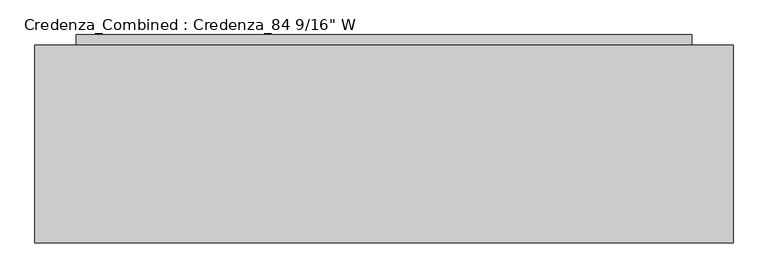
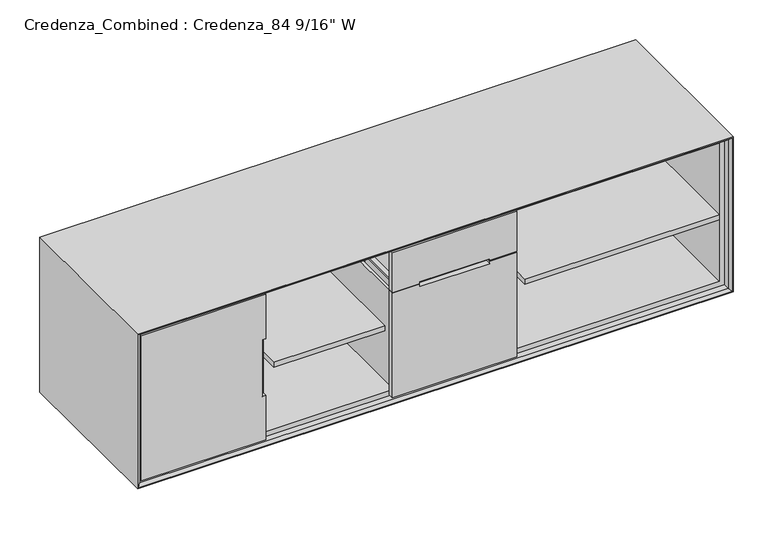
"""IFC4 building model written with IfcOpenShell, lengths in millimetres: furniture geometry."""

from ifc_helpers import new_model, si_unit, frame, origin, origin_with_axes, place, context, project, spatial, polyline, outline, extrude, faceted_brep, source, transform, mapped, element, save


def furniture_d45eaf3e(model_context):
    return source(origin(), model_context, "Body", "SolidModel", [
        extrude(outline(polyline([(2103.4375, 609.6), (2103.4375, 9.525), (1401.7625, 9.525), (1401.7625, 609.6), (2103.4375, 609.6)])), frame((0.0, 0.0, 371.475), z_axis=(0.0, 0.0, 1.0), x_axis=(1.0, 0.0, 0.0)), (0.0, 0.0, 1.0), 19.05),
        faceted_brep([(1297.9082407, 93.4200979, 124.61875), (1297.9082407, 244.7174021, 124.61875), (999.2042593, 244.7174021, 124.61875), (999.2042593, 93.4200979, 124.61875), (1303.9341657, 250.7433271, 118.26875), (1303.9341657, 87.3941729, 118.26875), (993.1783343, 87.3941729, 118.26875), (993.1783343, 250.7433271, 118.26875), (1336.5595885, 283.36875, 492.91875), (1336.5595885, 283.36875, 499.26875), (1336.5595885, 54.76875, 499.26875), (1336.5595885, 54.76875, 492.91875), (1323.8595885, 270.66875, 492.91875), (1323.8595885, 67.46875, 492.91875), (1317.8336635, 264.642825, 499.26875), (1317.8336635, 73.494675, 499.26875), (960.5529115, 54.76875, 499.26875), (960.5529115, 54.76875, 492.91875), (973.2529115, 67.46875, 492.91875), (979.2788365, 73.494675, 499.26875), (960.5529115, 283.36875, 499.26875), (960.5529115, 283.36875, 492.91875), (973.2529115, 270.66875, 492.91875), (979.2788365, 264.642825, 499.26875)], [[[0, 1, 2, 3]], [[4, 5, 6, 7]], [[8, 9, 10, 11]], [[4, 12, 13, 5]], [[14, 1, 0, 15]], [[11, 10, 16, 17]], [[5, 13, 18, 6]], [[15, 0, 3, 19]], [[17, 16, 20, 21]], [[6, 18, 22, 7]], [[19, 3, 2, 23]], [[9, 8, 21, 20]], [[8, 11, 17, 21], [13, 12, 22, 18]], [[12, 4, 7, 22]], [[1, 14, 23, 2]], [[10, 9, 20, 16], [14, 15, 19, 23]]]),
        faceted_brep([(1297.9082407, 383.9325979, 124.61875), (1297.9082407, 535.2299021, 124.61875), (999.2042593, 535.2299021, 124.61875), (999.2042593, 383.9325979, 124.61875), (1303.9341657, 541.2558271, 118.26875), (1303.9341657, 377.9066729, 118.26875), (993.1783343, 377.9066729, 118.26875), (993.1783343, 541.2558271, 118.26875), (1336.5595885, 573.88125, 492.91875), (1336.5595885, 573.88125, 499.26875), (1336.5595885, 345.28125, 499.26875), (1336.5595885, 345.28125, 492.91875), (1323.8595885, 561.18125, 492.91875), (1323.8595885, 357.98125, 492.91875), (1317.8336635, 555.155325, 499.26875), (1317.8336635, 364.007175, 499.26875), (960.5529115, 345.28125, 499.26875), (960.5529115, 345.28125, 492.91875), (973.2529115, 357.98125, 492.91875), (979.2788365, 364.007175, 499.26875), (960.5529115, 573.88125, 499.26875), (960.5529115, 573.88125, 492.91875), (973.2529115, 561.18125, 492.91875), (979.2788365, 555.155325, 499.26875)], [[[0, 1, 2, 3]], [[4, 5, 6, 7]], [[8, 9, 10, 11]], [[4, 12, 13, 5]], [[14, 1, 0, 15]], [[11, 10, 16, 17]], [[5, 13, 18, 6]], [[15, 0, 3, 19]], [[17, 16, 20, 21]], [[6, 18, 22, 7]], [[19, 3, 2, 23]], [[9, 8, 21, 20]], [[8, 11, 17, 21], [13, 12, 22, 18]], [[12, 4, 7, 22]], [[1, 14, 23, 2]], [[10, 9, 20, 16], [14, 15, 19, 23]]]),
        extrude(outline(polyline([(1341.4375, 319.0875), (1341.4375, 300.0375), (954.0875, 300.0375), (954.0875, 319.0875), (1341.4375, 319.0875)])), frame((0.0, 0.0, 118.26875), z_axis=(0.0, 0.0, 1.0), x_axis=(1.0, 0.0, 0.0)), (0.0, 0.0, 1.0), 360.3625),
        faceted_brep([(1355.725, 609.6, 478.63125), (941.3875, 609.6, 478.63125), (941.3875, 28.575, 478.63125), (1355.725, 28.575, 478.63125), (954.0875, 596.9, 478.63125), (1341.4375, 596.9, 478.63125), (1341.4375, 41.275, 478.63125), (954.0875, 41.275, 478.63125), (1355.725, 609.6, 105.56875), (941.3875, 609.6, 105.56875), (941.3875, 28.575, 105.56875), (1355.725, 28.575, 105.56875), (954.0875, 596.9, 118.26875), (1341.4375, 596.9, 118.26875), (1341.4375, 41.275, 118.26875), (954.0875, 41.275, 118.26875)], [[[0, 1, 2, 3], [4, 5, 6, 7]], [[1, 0, 8, 9]], [[2, 1, 9, 10]], [[3, 2, 10, 11]], [[8, 0, 3, 11]], [[5, 4, 12, 13]], [[6, 5, 13, 14]], [[7, 6, 14, 15]], [[4, 7, 15, 12]], [[13, 12, 15, 14]], [[8, 11, 10, 9]]]),
        extrude(outline(polyline([(504.03125, 923.925), (105.56875, 923.925), (105.56875, 1373.1875), (504.03125, 1373.1875), (504.03125, 1275.55625), (494.7030946, 1275.55625), (494.7030946, 1021.55625), (504.03125, 1021.55625), (504.03125, 923.925)])), frame((0.0, 9.525, 0.0), z_axis=(0.0, 1.0, 0.0), x_axis=(0.0, 0.0, 1.0)), (0.0, 0.0, 1.0), 19.05),
        extrude(outline(polyline([(659.60625, 1373.1875), (659.60625, 923.925), (507.20625, 923.925), (507.20625, 1021.55625), (513.3594054, 1021.55625), (513.3594054, 1275.55625), (507.20625, 1275.55625), (507.20625, 1373.1875), (659.60625, 1373.1875)])), frame((0.0, 9.525, 0.0), z_axis=(0.0, 1.0, 0.0), x_axis=(0.0, 0.0, 1.0)), (0.0, 0.0, 1.0), 19.05),
        extrude(outline(polyline([(896.14375, 609.6), (896.14375, 9.525), (496.09375, 9.525), (496.09375, 609.6), (896.14375, 609.6)])), frame((0.0, 0.0, 371.475), z_axis=(0.0, 0.0, 1.0), x_axis=(1.0, 0.0, 0.0)), (0.0, 0.0, 1.0), 19.05),
        extrude(outline(polyline([(2020.8875, 609.6), (2020.8875, 241.3), (127.0, 241.3), (127.0, 609.6), (2020.8875, 609.6)])), origin_with_axes(), (0.0, 0.0, 1.0), 87.3125),
        extrude(outline(polyline([(2020.8875, 641.35), (2020.8875, 609.6), (127.0, 609.6), (127.0, 641.35), (2020.8875, 641.35)])), origin_with_axes(), (0.0, 0.0, 1.0), 647.7),
        extrude(outline(polyline([(665.1625, 2135.1875), (665.1625, 12.7), (100.0125, 12.7), (100.0125, 2135.1875), (665.1625, 2135.1875)]), holes=[polyline([(646.1125, 31.75), (646.1125, 2116.1375), (119.0625, 2116.1375), (119.0625, 31.75), (646.1125, 31.75)])]), frame((0.0, 31.75, 0.0), z_axis=(0.0, 1.0, 0.0), x_axis=(0.0, 0.0, 1.0)), (0.0, 0.0, 1.0), 577.85),
        faceted_brep([(2135.1875, 9.525, 665.1625), (2135.1875, 609.6, 665.1625), (2135.1875, 609.6, 100.0125), (2135.1875, 9.525, 100.0125), (2144.7125, 0.0, 674.6875), (2144.7125, 0.0, 90.4875), (2147.8875, 609.6, 677.8625), (2147.8875, 0.0, 677.8625), (2147.8875, 0.0, 87.3125), (2147.8875, 609.6, 87.3125), (12.7, 609.6, 100.0125), (12.7, 9.525, 100.0125), (3.175, 0.0, 90.4875), (0.0, 0.0, 87.3125), (0.0, 609.6, 87.3125), (12.7, 609.6, 665.1625), (12.7, 9.525, 665.1625), (3.175, 0.0, 674.6875), (0.0, 0.0, 677.8625), (0.0, 609.6, 677.8625)], [[[0, 1, 2, 3]], [[4, 0, 3, 5]], [[6, 7, 8, 9]], [[3, 2, 10, 11]], [[5, 3, 11, 12]], [[9, 8, 13, 14]], [[11, 10, 15, 16]], [[12, 11, 16, 17]], [[14, 13, 18, 19]], [[9, 14, 19, 6], [1, 15, 10, 2]], [[16, 15, 1, 0]], [[17, 16, 0, 4]], [[7, 18, 13, 8], [5, 12, 17, 4]], [[19, 18, 7, 6]]]),
        faceted_brep([(468.3125, 28.575, 659.60625), (19.05, 28.575, 659.60625), (19.05, 9.525, 659.60625), (468.3125, 9.525, 659.60625), (468.3125, 28.575, 105.56875), (468.3125, 9.525, 105.56875), (19.05, 9.525, 105.56875), (19.05, 28.575, 105.56875), (468.3125, 9.525, 274.6375), (455.6125, 9.525, 274.6375), (455.6125, 9.525, 490.5375), (468.3125, 9.525, 490.5375), (468.3125, 25.4, 490.5375), (468.3125, 25.4, 274.6375), (455.6125, 25.4, 490.5375), (455.6125, 25.4, 274.6375)], [[[0, 1, 2, 3]], [[4, 5, 6, 7]], [[1, 0, 4, 7]], [[2, 1, 7, 6]], [[3, 2, 6, 5, 8, 9, 10, 11]], [[0, 3, 11, 12, 13, 8, 5, 4]], [[12, 14, 15, 13]], [[14, 12, 11, 10]], [[15, 14, 10, 9]], [[13, 15, 9, 8]]]),
        extrude(outline(polyline([(468.3125, 609.6), (468.3125, 28.575), (19.05, 28.575), (19.05, 609.6), (468.3125, 609.6)])), frame((0.0, 0.0, 382.5875), z_axis=(0.0, 0.0, 1.0), x_axis=(1.0, 0.0, 0.0)), (0.0, 0.0, 1.0), 19.05),
    ])


if __name__ == "__main__":
    model = new_model("IFC4")
    model_context = context("Model", 3, world=origin())
    ifc_project = project(units=[si_unit("LENGTHUNIT", "METRE", prefix="MILLI")], contexts=[model_context])
    site = spatial("IfcSite", under=ifc_project)
    building = spatial("IfcBuilding", under=site)
    placement = place(None, origin())
    furniture_shape = furniture_d45eaf3e(model_context)
    element("IfcFurniture", 1, ObjectType="Credenza_Combined : Credenza_84 9/16\" W", at=placement, inside=building, context=model_context, shape_type="MappedRepresentation", body=[
        mapped(furniture_shape, transform((0.0, 0.0, 0.0), x_axis=(1.0, 0.0, 0.0), y_axis=(0.0, 1.0, 0.0), z_axis=(0.0, 0.0, 1.0))),
    ])
    save(model, "model.ifc")
